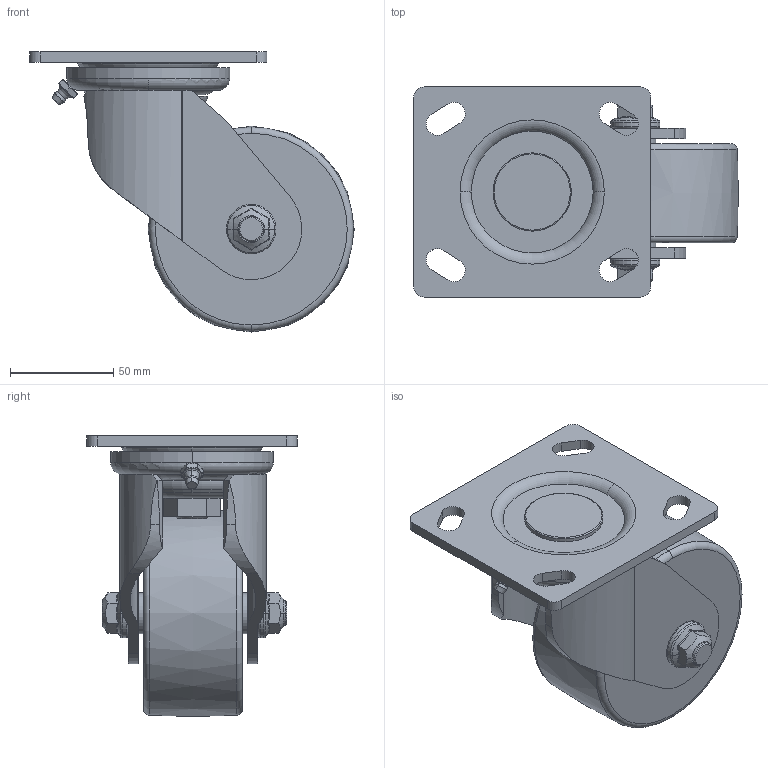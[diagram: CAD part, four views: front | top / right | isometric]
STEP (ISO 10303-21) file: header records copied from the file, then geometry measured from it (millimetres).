
FILE_DESCRIPTION((''),'2;1');
FILE_NAME('PM-100-ASF-NYD.stp','2013-04-30T11:09:40',(''),(''),'Mechanical Desktop 2009','Mechanical Desktop 2009',', , ');
FILE_SCHEMA(('CONFIG_CONTROL_DESIGN'));
Length unit declared in the file: millimetre
Products named in the file (2): PM-100-ASF-NYD; SF PLATE
Assembly tree (1 placements, depth 2):
  PM-100-ASF-NYD
    SF PLATE
Bounding box: 157.5 x 102 x 135.95 mm (x, y, z)
Volume: 583580.1 mm3; surface area: 94536.4 mm2
Topology: 1 solids, 1 shells, 214 faces, 540 edges, 344 vertices
Faces by surface type: plane 84, cylinder 56, torus 28, bspline 26, cone 20
Entity records: 8209 total; most frequent: CARTESIAN_POINT 3028, ORIENTED_EDGE 1080, DIRECTION 1064, EDGE_CURVE 540, AXIS2_PLACEMENT_3D 426, VERTEX_POINT 344, EDGE_LOOP 242, CIRCLE 220
